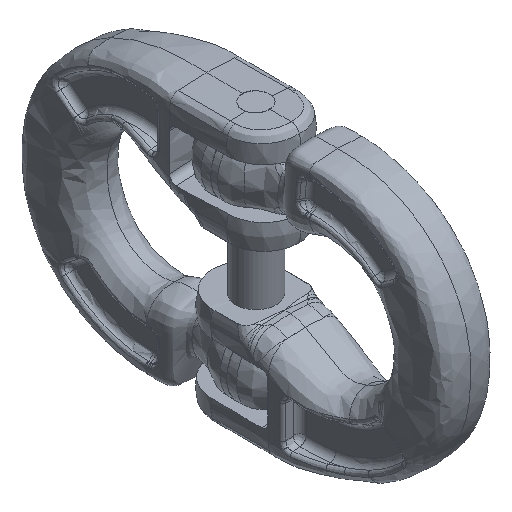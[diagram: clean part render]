
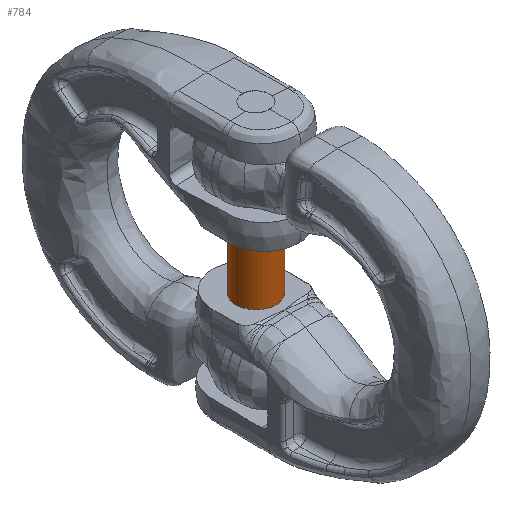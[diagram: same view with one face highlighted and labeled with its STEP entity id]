
A CAD part, isometric view. The second image highlights one B-rep face of the part: STEP entity #784.
In plain terms, the highlighted cylindrical face has radius 6 mm (diameter 12 mm), a full revolution.
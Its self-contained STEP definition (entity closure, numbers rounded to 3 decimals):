
#101=CYLINDRICAL_SURFACE('',#8072,6.);
#784=ADVANCED_FACE('',(#1100,#1101),#101,.T.);
#1100=FACE_BOUND('',#1845,.T.);
#1101=FACE_BOUND('',#1846,.T.);
#1845=EDGE_LOOP('',(#4327));
#1846=EDGE_LOOP('',(#4328));
#2240=CIRCLE('',#8070,6.);
#2241=CIRCLE('',#8071,6.);
#4327=ORIENTED_EDGE('',*,*,#6903,.F.);
#4328=ORIENTED_EDGE('',*,*,#6904,.T.);
#5921=VERTEX_POINT('',#19846);
#5922=VERTEX_POINT('',#19848);
#6903=EDGE_CURVE('',#5921,#5921,#2240,.T.);
#6904=EDGE_CURVE('',#5922,#5922,#2241,.T.);
#8070=AXIS2_PLACEMENT_3D('',#19845,#8889,#8890);
#8071=AXIS2_PLACEMENT_3D('',#19847,#8891,#8892);
#8072=AXIS2_PLACEMENT_3D('',#19849,#8893,#8894);
#8889=DIRECTION('',(0.,0.,1.));
#8890=DIRECTION('',(1.,0.,0.));
#8891=DIRECTION('',(0.,0.,1.));
#8892=DIRECTION('',(1.,0.,0.));
#8893=DIRECTION('',(0.,0.,-1.));
#8894=DIRECTION('',(-1.,0.,0.));
#19845=CARTESIAN_POINT('',(0.,0.,20.506));
#19846=CARTESIAN_POINT('',(6.,0.,20.506));
#19847=CARTESIAN_POINT('',(0.,0.,1.506));
#19848=CARTESIAN_POINT('',(6.,0.,1.506));
#19849=CARTESIAN_POINT('',(0.,0.,20.506));
